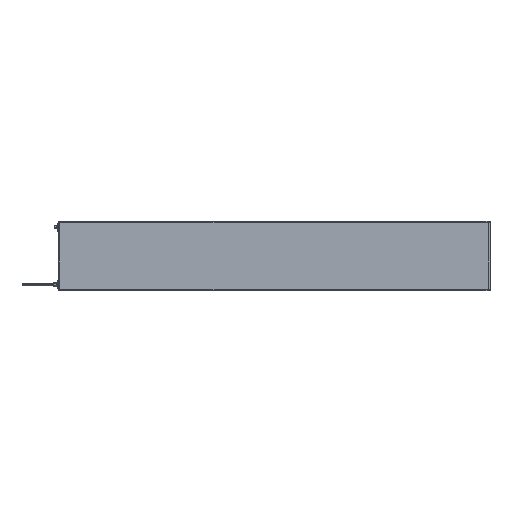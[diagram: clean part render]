
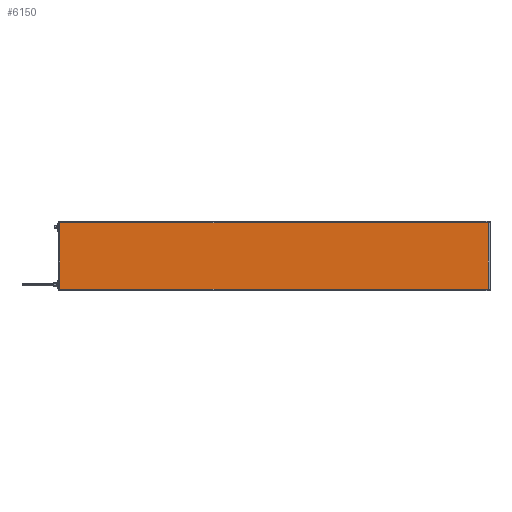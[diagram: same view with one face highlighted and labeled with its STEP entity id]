
A CAD part, top view. The second image highlights one B-rep face of the part: STEP entity #6150.
In plain terms, the highlighted planar face has unit normal (0, 0, 1).
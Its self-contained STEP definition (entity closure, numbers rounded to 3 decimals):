
#45 = CARTESIAN_POINT ( 'NONE',  ( 1896., 296., 41.85 ) ) ;
#508 = EDGE_CURVE ( 'NONE', #4874, #9076, #3891, .T. ) ;
#639 = ORIENTED_EDGE ( 'NONE', *, *, #3690, .T. ) ;
#675 = EDGE_CURVE ( 'NONE', #9076, #1752, #12653, .T. ) ;
#1205 = EDGE_LOOP ( 'NONE', ( #639, #10249, #7914, #15119 ) ) ;
#1243 = CARTESIAN_POINT ( 'NONE',  ( 4., 0., 41.85 ) ) ;
#1752 = VERTEX_POINT ( 'NONE', #14127 ) ;
#1940 = VECTOR ( 'NONE', #17028, 1000. ) ;
#2966 = VECTOR ( 'NONE', #17171, 1000. ) ;
#3300 = VERTEX_POINT ( 'NONE', #45 ) ;
#3380 = VECTOR ( 'NONE', #10728, 1000. ) ;
#3690 = EDGE_CURVE ( 'NONE', #1752, #3300, #7401, .T. ) ;
#3891 = LINE ( 'NONE', #1243, #3380 ) ;
#4659 = VECTOR ( 'NONE', #11342, 1000. ) ;
#4874 = VERTEX_POINT ( 'NONE', #8994 ) ;
#5872 = CARTESIAN_POINT ( 'NONE',  ( 0., 296., 41.85 ) ) ;
#6043 = CARTESIAN_POINT ( 'NONE',  ( 1896., 0., 41.85 ) ) ;
#6150 = ADVANCED_FACE ( 'NONE', ( #16291 ), #14831, .F. ) ;
#7401 = LINE ( 'NONE', #6043, #2966 ) ;
#7914 = ORIENTED_EDGE ( 'NONE', *, *, #508, .T. ) ;
#8994 = CARTESIAN_POINT ( 'NONE',  ( 4., 296., 41.85 ) ) ;
#9075 = EDGE_CURVE ( 'NONE', #3300, #4874, #12451, .T. ) ;
#9076 = VERTEX_POINT ( 'NONE', #16630 ) ;
#9174 = DIRECTION ( 'NONE',  ( -1., 0., 0. ) ) ;
#9353 = CARTESIAN_POINT ( 'NONE',  ( 0., 0., 41.85 ) ) ;
#10249 = ORIENTED_EDGE ( 'NONE', *, *, #9075, .T. ) ;
#10728 = DIRECTION ( 'NONE',  ( 0., -1., 0. ) ) ;
#10907 = DIRECTION ( 'NONE',  ( 0., 0., -1. ) ) ;
#11342 = DIRECTION ( 'NONE',  ( -1., 0., 0. ) ) ;
#12451 = LINE ( 'NONE', #5872, #4659 ) ;
#12653 = LINE ( 'NONE', #15650, #1940 ) ;
#14127 = CARTESIAN_POINT ( 'NONE',  ( 1896., 4., 41.85 ) ) ;
#14453 = AXIS2_PLACEMENT_3D ( 'NONE', #9353, #10907, #9174 ) ;
#14831 = PLANE ( 'NONE',  #14453 ) ;
#15119 = ORIENTED_EDGE ( 'NONE', *, *, #675, .T. ) ;
#15650 = CARTESIAN_POINT ( 'NONE',  ( 0., 4., 41.85 ) ) ;
#16291 = FACE_OUTER_BOUND ( 'NONE', #1205, .T. ) ;
#16630 = CARTESIAN_POINT ( 'NONE',  ( 4., 4., 41.85 ) ) ;
#17028 = DIRECTION ( 'NONE',  ( 1., 0., 0. ) ) ;
#17171 = DIRECTION ( 'NONE',  ( 0., 1., 0. ) ) ;
